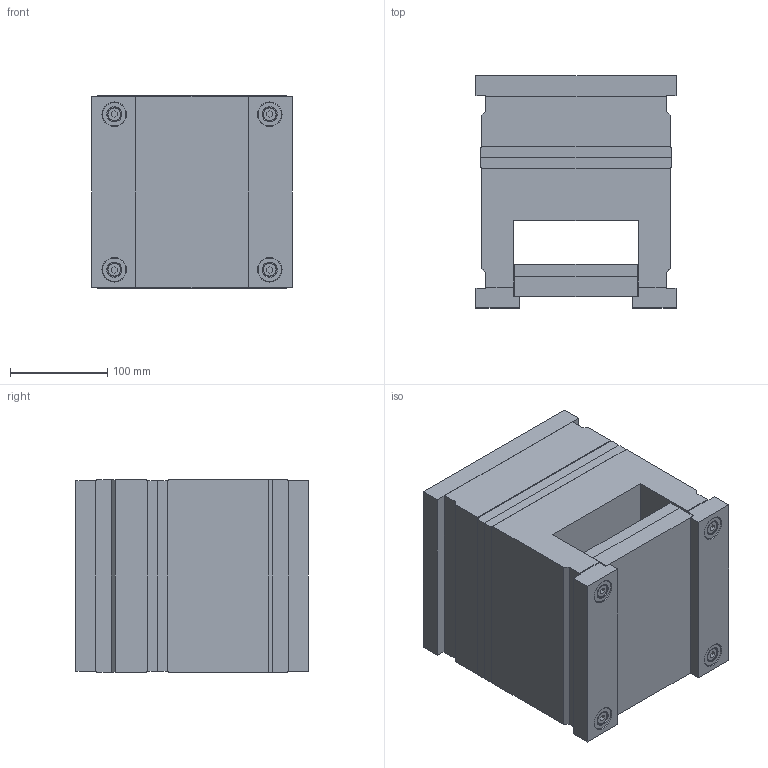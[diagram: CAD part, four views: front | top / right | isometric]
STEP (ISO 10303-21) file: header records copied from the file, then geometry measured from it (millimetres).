
FILE_DESCRIPTION (( 'STEP AP214' ), '1' );
FILE_NAME ('1961.STEP', '2002-07-10T07:51:19', ( 'Simcha Kilim' ), ( 'K. Plastics Engineering' ), 'SwSTEP 2.0', 'SolidWorks 2002025', '' );
FILE_SCHEMA (( 'AUTOMOTIVE_DESIGN' ));
Length unit declared in the file: millimetre
Products named in the file (12): 1961; ALMO (ejector half)_1961; ALMO (guide bush)_Ø15; ALMO (ejector plate)_1961; ALMO (guide pin)_Ø14; ALMO (ejector return plate)_1961; ALMO (guide bush)_Ø14; ALMO (guide pin)_Ø15; ALMO (hot half)_1961; ALMO (key plate)_Ø14; ALMO (screw)_M8x115; ALMO (screw)_M8x60
Assembly tree (28 placements, depth 2):
  1961
    ALMO (guide bush)_Ø15
    ALMO (guide bush)_Ø14  x3
    ALMO (key plate)_Ø14  x8
    ALMO (guide pin)_Ø14  x3
    ALMO (screw)_M8x60  x4
    ALMO (screw)_M8x115  x4
    ALMO (guide pin)_Ø15
    ALMO (ejector half)_1961
    ALMO (ejector plate)_1961
    ALMO (hot half)_1961
    ALMO (ejector return plate)_1961
Bounding box: 206 x 239 x 198 mm (x, y, z)
Volume: 7680559.5 mm3; surface area: 616494.8 mm2
Topology: 28 solids, 28 shells, 706 faces, 1496 edges, 924 vertices
Faces by surface type: cylinder 260, plane 254, cone 192
Entity records: 10477 total; most frequent: DIRECTION 1914, CARTESIAN_POINT 1683, ORIENTED_EDGE 1584, EDGE_CURVE 792, AXIS2_PLACEMENT_3D 729, VERTEX_POINT 498, LINE 456, VECTOR 456
